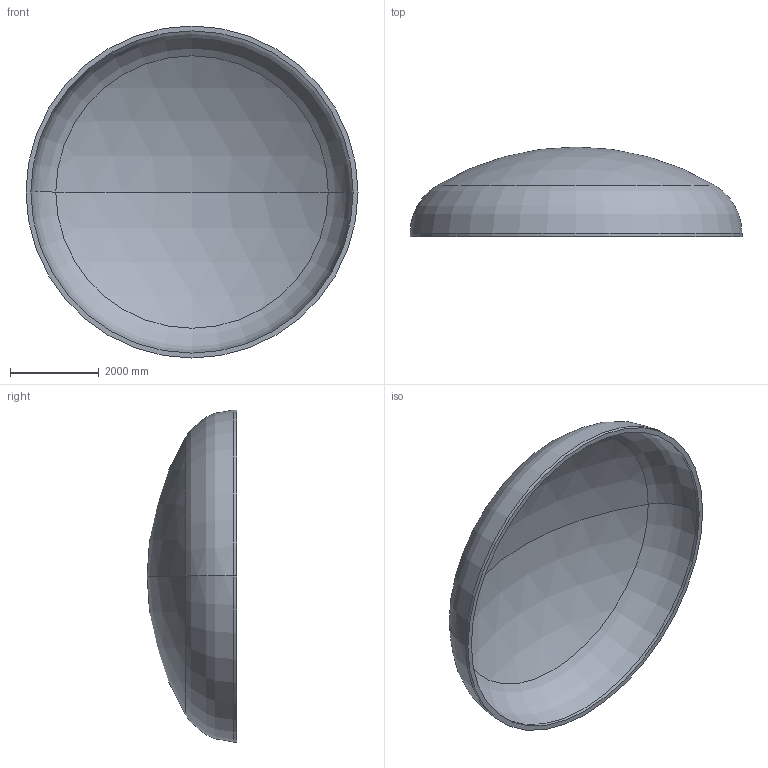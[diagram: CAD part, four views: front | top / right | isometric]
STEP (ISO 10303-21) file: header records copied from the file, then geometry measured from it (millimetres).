
FILE_DESCRIPTION (( 'STEP AP203' ), '1' );
FILE_NAME ('DIN 28013 Korbbogenform_-_Boden DIN 28013 - 7500 x 75 - I - s=110.step', '2016-07-04T10:57:28', ( '' ), ( '' ), 'SwSTEP 2.0', 'SolidWorks 2013', '' );
FILE_SCHEMA (( 'CONFIG_CONTROL_DESIGN' ));
Length unit declared in the file: millimetre
Products named in the file (1): DIN 28013 Korbbogenform_-_Boden DIN 28013 - 7500 x 75 - I - s=110
Bounding box: 7500 x 2025.82 x 7500 mm (x, y, z)
Volume: 6792953081.9 mm3; surface area: 126087333.3 mm2
Topology: 1 solids, 1 shells, 13 faces, 24 edges, 14 vertices
Faces by surface type: torus 4, cylinder 4, sphere 4, plane 1
Entity records: 407 total; most frequent: DIRECTION 72, CARTESIAN_POINT 52, ORIENTED_EDGE 48, AXIS2_PLACEMENT_3D 34, EDGE_CURVE 24, CIRCLE 20, VERTEX_POINT 14, EDGE_LOOP 14
